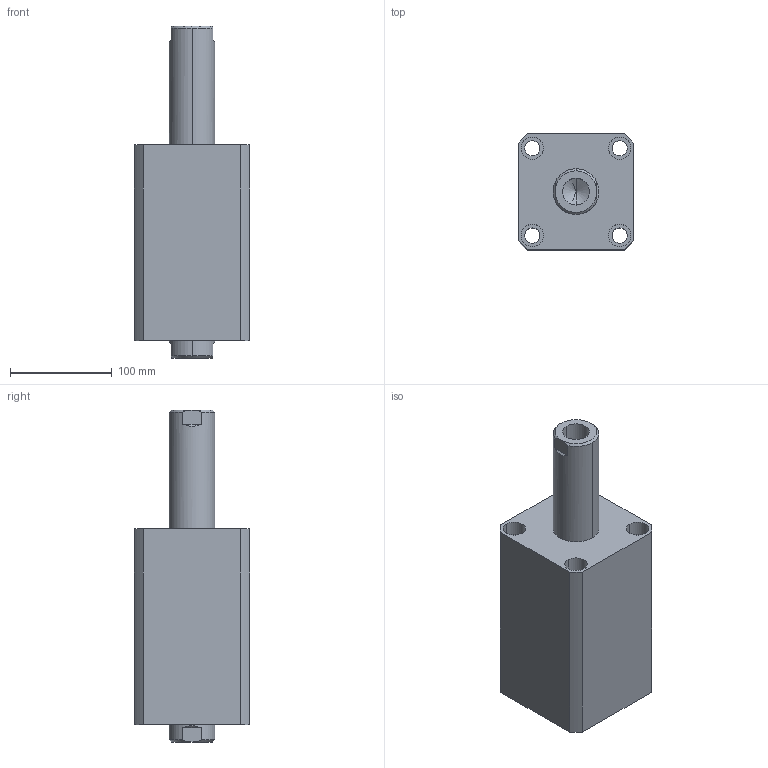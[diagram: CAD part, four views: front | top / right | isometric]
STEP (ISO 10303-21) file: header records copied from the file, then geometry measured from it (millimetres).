
FILE_DESCRIPTION (( 'STEP AP214' ), '1' );
FILE_NAME ('chtb-sw80x100n_asm.STEP', '2018-05-28T00:56:16', ( 'Windows' ), ( 'Microsoft' ), 'SwSTEP 2.0', 'SolidWorks 2015', '' );
FILE_SCHEMA (( 'AUTOMOTIVE_DESIGN' ));
Length unit declared in the file: millimetre
Products named in the file (4): CHTB-SD80QG; chtb-sw80x100n_asm; CHTB-SW80X100NBT; CHTB-SD80X100NHSG
Assembly tree (3 placements, depth 2):
  chtb-sw80x100n_asm
    CHTB-SD80QG
    CHTB-SD80X100NHSG
    CHTB-SW80X100NBT
Bounding box: 114 x 114 x 327 mm (x, y, z)
Volume: 2121649 mm3; surface area: 285485.6 mm2
Topology: 3 solids, 3 shells, 208 faces, 550 edges, 365 vertices
Faces by surface type: cylinder 109, plane 42, cone 25, torus 18, bspline 14
Entity records: 15645 total; most frequent: CARTESIAN_POINT 10539, ORIENTED_EDGE 1084, DIRECTION 970, EDGE_CURVE 542, AXIS2_PLACEMENT_3D 407, VERTEX_POINT 365, EDGE_LOOP 249, FACE_OUTER_BOUND 208
